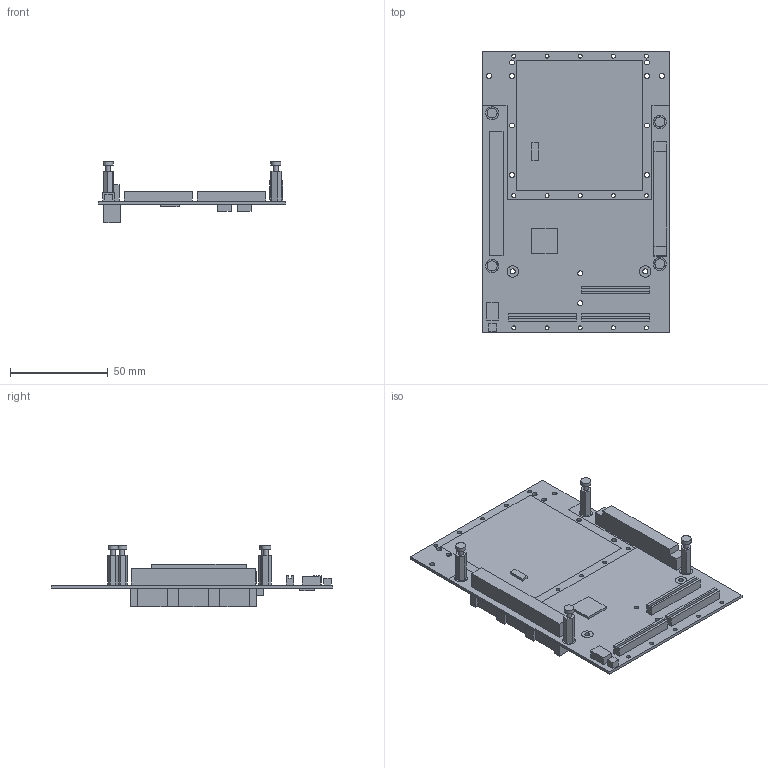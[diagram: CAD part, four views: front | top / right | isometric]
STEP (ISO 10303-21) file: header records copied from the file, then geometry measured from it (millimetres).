
FILE_DESCRIPTION (( 'STEP AP214' ), '1' );
FILE_NAME ('PCIE104X1-PMC-0.STEP', '2024-04-02T00:55:18', ( '' ), ( '' ), 'SwSTEP 2.0', 'SolidWorks 2023', '' );
FILE_SCHEMA (( 'AUTOMOTIVE_DESIGN' ));
Length unit declared in the file: inch
Products named in the file (14): PCIE104X1-PMC-0-Comp3; PCIE104X1-PMC-0-Comp1; PCIE104X1-PMC-0; PCIE104X1-PMC-0-Standoff; ASP-129646-03; PCIE104X1-PMC-0-Comp4; ASP-129637-0; PCIE104X1-PMC-0-Board; PCIE104X1-PMC-0-Comp6; PCIE104X1-PMC-0-Comp2; P50E-068P1-S1-EA; PCIE104X1-PMC-0-Comp5; PCIE104X1-PMC-0-Screw; 52763-0649
Assembly tree (22 placements, depth 2):
  PCIE104X1-PMC-0
    PCIE104X1-PMC-0-Board
    PCIE104X1-PMC-0-Standoff  x4
    PCIE104X1-PMC-0-Screw  x4
    ASP-129646-03
    ASP-129637-0
    P50E-068P1-S1-EA
    52763-0649  x3
    PCIE104X1-PMC-0-Comp3
    PCIE104X1-PMC-0-Comp1
    PCIE104X1-PMC-0-Comp2
    PCIE104X1-PMC-0-Comp4
    PCIE104X1-PMC-0-Comp6
    PCIE104X1-PMC-0-Comp5  x2
Bounding box: 96.01 x 144.27 x 31.62 mm (x, y, z)
Volume: 36443.2 mm3; surface area: 40319.1 mm2
Topology: 22 solids, 22 shells, 241 faces, 537 edges, 370 vertices
Faces by surface type: plane 196, cylinder 45
Full cylindrical faces by diameter (mm): 1.395 x8, 2.032 x15, 2.54 x18, 5.08 x4
Entity records: 5269 total; most frequent: DIRECTION 814, CARTESIAN_POINT 813, ORIENTED_EDGE 708, EDGE_CURVE 354, EDGE_LOOP 276, LINE 272, VECTOR 272, AXIS2_PLACEMENT_3D 271
